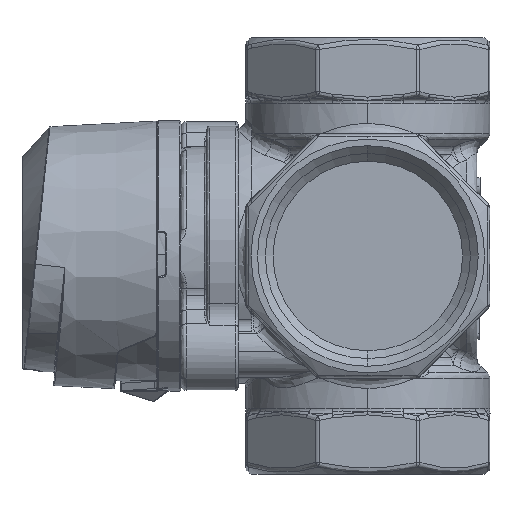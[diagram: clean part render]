
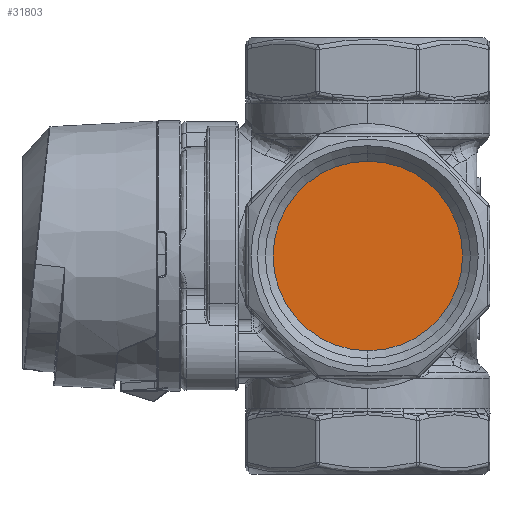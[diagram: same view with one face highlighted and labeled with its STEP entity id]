
A CAD part, left-side view. The second image highlights one B-rep face of the part: STEP entity #31803.
In plain terms, the highlighted planar face has unit normal (-1, 0, 0).
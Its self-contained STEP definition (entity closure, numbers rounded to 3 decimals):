
#11408 = CARTESIAN_POINT ( 'NONE',  ( -22., 0., 0. ) ) ;
#17087 = DIRECTION ( 'NONE',  ( 0., 0., 1. ) ) ;
#18996 = DIRECTION ( 'NONE',  ( 0., 0., -1. ) ) ;
#27601 = EDGE_CURVE ( 'NONE', #79642, #85984, #124294, .T. ) ;
#30609 = ORIENTED_EDGE ( 'NONE', *, *, #27601, .T. ) ;
#31283 = DIRECTION ( 'NONE',  ( -1., 0., 0. ) ) ;
#31803 = ADVANCED_FACE ( 'NONE', ( #121153 ), #64773, .F. ) ;
#34992 = AXIS2_PLACEMENT_3D ( 'NONE', #119671, #121899, #18996 ) ;
#44682 = CIRCLE ( 'NONE', #51870, 18.25 ) ;
#51870 = AXIS2_PLACEMENT_3D ( 'NONE', #11408, #114271, #57196 ) ;
#57196 = DIRECTION ( 'NONE',  ( 0., 0., 1. ) ) ;
#61743 = ORIENTED_EDGE ( 'NONE', *, *, #82169, .T. ) ;
#64294 = AXIS2_PLACEMENT_3D ( 'NONE', #145456, #31283, #17087 ) ;
#64773 = PLANE ( 'NONE',  #34992 ) ;
#79642 = VERTEX_POINT ( 'NONE', #134888 ) ;
#82169 = EDGE_CURVE ( 'NONE', #85984, #79642, #44682, .T. ) ;
#85984 = VERTEX_POINT ( 'NONE', #142108 ) ;
#114271 = DIRECTION ( 'NONE',  ( -1., 0., 0. ) ) ;
#119250 = EDGE_LOOP ( 'NONE', ( #61743, #30609 ) ) ;
#119671 = CARTESIAN_POINT ( 'NONE',  ( -22., 18.25, 0. ) ) ;
#121153 = FACE_OUTER_BOUND ( 'NONE', #119250, .T. ) ;
#121899 = DIRECTION ( 'NONE',  ( 1., 0., 0. ) ) ;
#124294 = CIRCLE ( 'NONE', #64294, 18.25 ) ;
#134888 = CARTESIAN_POINT ( 'NONE',  ( -22., 0., -18.25 ) ) ;
#142108 = CARTESIAN_POINT ( 'NONE',  ( -22., 0., 18.25 ) ) ;
#145456 = CARTESIAN_POINT ( 'NONE',  ( -22., 0., 0. ) ) ;
